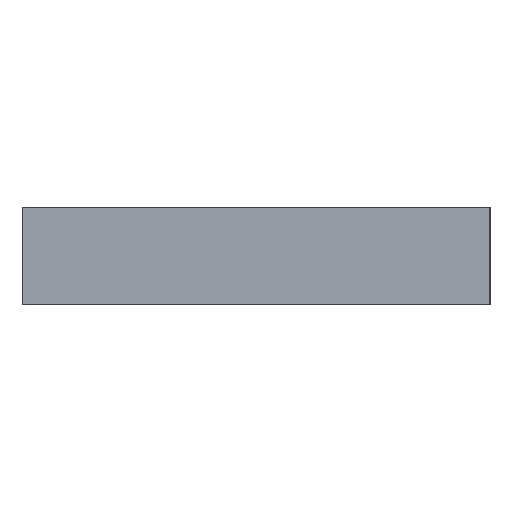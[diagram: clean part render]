
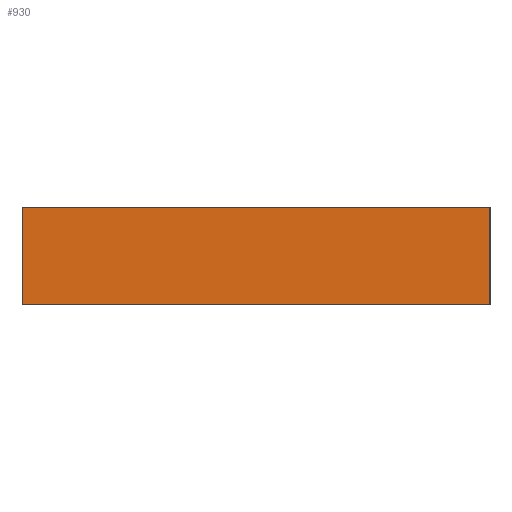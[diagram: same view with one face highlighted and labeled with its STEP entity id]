
A CAD part, left-side view. The second image highlights one B-rep face of the part: STEP entity #930.
In plain terms, the highlighted planar face has unit normal (-1, 0, 0).
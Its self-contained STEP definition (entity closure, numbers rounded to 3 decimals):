
#796=CARTESIAN_POINT('',(-3.251,-1.702,0.0));
#795=VERTEX_POINT('',#796);
#814=CARTESIAN_POINT('',(-3.251,-1.702,0.711));
#813=VERTEX_POINT('',#814);
#822=EDGE_CURVE('',#795,#813,#827,.T.);
#827=LINE('',#796,#829);
#829=VECTOR('',#830,0.711);
#830=DIRECTION('',(0.0,0.0,1.0));
#892=CARTESIAN_POINT('',(-3.251,1.702,0.0));
#891=VERTEX_POINT('',#892);
#902=CARTESIAN_POINT('',(-3.251,1.702,0.711));
#901=VERTEX_POINT('',#902);
#900=EDGE_CURVE('',#901,#891,#905,.T.);
#905=LINE('',#902,#907);
#907=VECTOR('',#908,0.711);
#908=DIRECTION('',(0.0,0.0,-1.0));
#930=ADVANCED_FACE('',(#936),#931,.T.);
#931=PLANE('',#932);
#932=AXIS2_PLACEMENT_3D('',#933,#934,#935);
#933=CARTESIAN_POINT('',(-3.251,1.702,0.0));
#934=DIRECTION('',(-1.0,0.0,0.0));
#935=DIRECTION('',(0.,0.,1.));
#936=FACE_OUTER_BOUND('',#937,.T.);
#937=EDGE_LOOP('',(#938,#948,#958,#968));
#939=EDGE_CURVE('',#795,#891,#944,.T.);
#944=LINE('',#796,#946);
#946=VECTOR('',#947,3.404);
#947=DIRECTION('',(0.0,1.0,0.0));
#938=ORIENTED_EDGE('',*,*,#939,.F.);
#948=ORIENTED_EDGE('',*,*,#822,.T.);
#959=EDGE_CURVE('',#901,#813,#964,.T.);
#964=LINE('',#902,#966);
#966=VECTOR('',#967,3.404);
#967=DIRECTION('',(0.0,-1.0,0.0));
#958=ORIENTED_EDGE('',*,*,#959,.F.);
#968=ORIENTED_EDGE('',*,*,#900,.T.);
